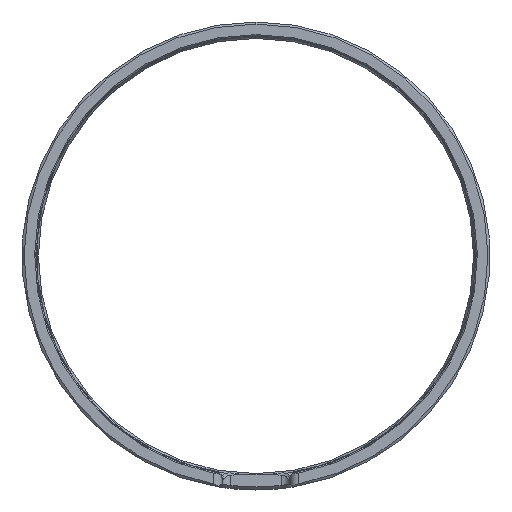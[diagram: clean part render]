
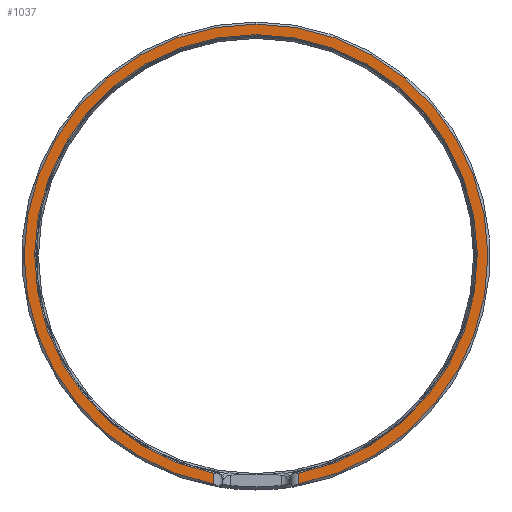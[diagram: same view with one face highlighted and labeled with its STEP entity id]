
A CAD part, left-side view. The second image highlights one B-rep face of the part: STEP entity #1037.
In plain terms, the highlighted planar face has unit normal (-1, 0, 0).
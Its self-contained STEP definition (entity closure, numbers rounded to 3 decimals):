
#61 = DIRECTION ( 'NONE',  ( 0., 0., 1. ) ) ;
#341 = FACE_OUTER_BOUND ( 'NONE', #3159, .T. ) ;
#568 = CARTESIAN_POINT ( 'NONE',  ( -200., 10.2, -56. ) ) ;
#635 = VERTEX_POINT ( 'NONE', #3072 ) ;
#731 = VECTOR ( 'NONE', #4115, 1000. ) ;
#1037 = ADVANCED_FACE ( 'NONE', ( #341 ), #5423, .T. ) ;
#1079 = EDGE_CURVE ( 'NONE', #635, #3967, #4963, .T. ) ;
#1307 = VECTOR ( 'NONE', #61, 1000. ) ;
#1484 = DIRECTION ( 'NONE',  ( 0., 0., 1. ) ) ;
#1503 = AXIS2_PLACEMENT_3D ( 'NONE', #1756, #5082, #3585 ) ;
#1756 = CARTESIAN_POINT ( 'NONE',  ( -200., 0., 0. ) ) ;
#1827 = CARTESIAN_POINT ( 'NONE',  ( -200., 0., 0. ) ) ;
#1951 = ORIENTED_EDGE ( 'NONE', *, *, #2579, .F. ) ;
#2291 = AXIS2_PLACEMENT_3D ( 'NONE', #3556, #2625, #5867 ) ;
#2559 = CIRCLE ( 'NONE', #5947, 55.5 ) ;
#2579 = EDGE_CURVE ( 'NONE', #3967, #4308, #3045, .T. ) ;
#2611 = CARTESIAN_POINT ( 'NONE',  ( -200., 0., 55.5 ) ) ;
#2623 = EDGE_CURVE ( 'NONE', #2778, #4308, #3769, .T. ) ;
#2625 = DIRECTION ( 'NONE',  ( -1., 0., 0. ) ) ;
#2756 = DIRECTION ( 'NONE',  ( 0., 0., -1. ) ) ;
#2778 = VERTEX_POINT ( 'NONE', #2788 ) ;
#2788 = CARTESIAN_POINT ( 'NONE',  ( -200., 10.2, -54.555 ) ) ;
#2960 = EDGE_CURVE ( 'NONE', #635, #3260, #2559, .T. ) ;
#3045 = CIRCLE ( 'NONE', #1503, 52.975 ) ;
#3072 = CARTESIAN_POINT ( 'NONE',  ( -200., -10.2, -54.555 ) ) ;
#3159 = EDGE_LOOP ( 'NONE', ( #4889, #4371, #3677, #5367, #1951 ) ) ;
#3260 = VERTEX_POINT ( 'NONE', #2611 ) ;
#3556 = CARTESIAN_POINT ( 'NONE',  ( -200., 0., 0. ) ) ;
#3585 = DIRECTION ( 'NONE',  ( 0., 0., 1. ) ) ;
#3677 = ORIENTED_EDGE ( 'NONE', *, *, #4867, .T. ) ;
#3769 = LINE ( 'NONE', #568, #1307 ) ;
#3772 = CARTESIAN_POINT ( 'NONE',  ( -200., 0., 0. ) ) ;
#3967 = VERTEX_POINT ( 'NONE', #4083 ) ;
#4083 = CARTESIAN_POINT ( 'NONE',  ( -200., -10.2, -51.984 ) ) ;
#4115 = DIRECTION ( 'NONE',  ( 0., 0., 1. ) ) ;
#4308 = VERTEX_POINT ( 'NONE', #5668 ) ;
#4371 = ORIENTED_EDGE ( 'NONE', *, *, #2960, .T. ) ;
#4504 = CARTESIAN_POINT ( 'NONE',  ( -200., -10.2, -56. ) ) ;
#4867 = EDGE_CURVE ( 'NONE', #3260, #2778, #4890, .T. ) ;
#4889 = ORIENTED_EDGE ( 'NONE', *, *, #1079, .F. ) ;
#4890 = CIRCLE ( 'NONE', #2291, 55.5 ) ;
#4963 = LINE ( 'NONE', #4504, #731 ) ;
#5082 = DIRECTION ( 'NONE',  ( -1., 0., 0. ) ) ;
#5367 = ORIENTED_EDGE ( 'NONE', *, *, #2623, .T. ) ;
#5423 = PLANE ( 'NONE',  #5954 ) ;
#5451 = DIRECTION ( 'NONE',  ( -1., 0., 0. ) ) ;
#5624 = DIRECTION ( 'NONE',  ( -1., 0., 0. ) ) ;
#5668 = CARTESIAN_POINT ( 'NONE',  ( -200., 10.2, -51.984 ) ) ;
#5867 = DIRECTION ( 'NONE',  ( 0., 0., 1. ) ) ;
#5947 = AXIS2_PLACEMENT_3D ( 'NONE', #3772, #5624, #1484 ) ;
#5954 = AXIS2_PLACEMENT_3D ( 'NONE', #1827, #5451, #2756 ) ;
